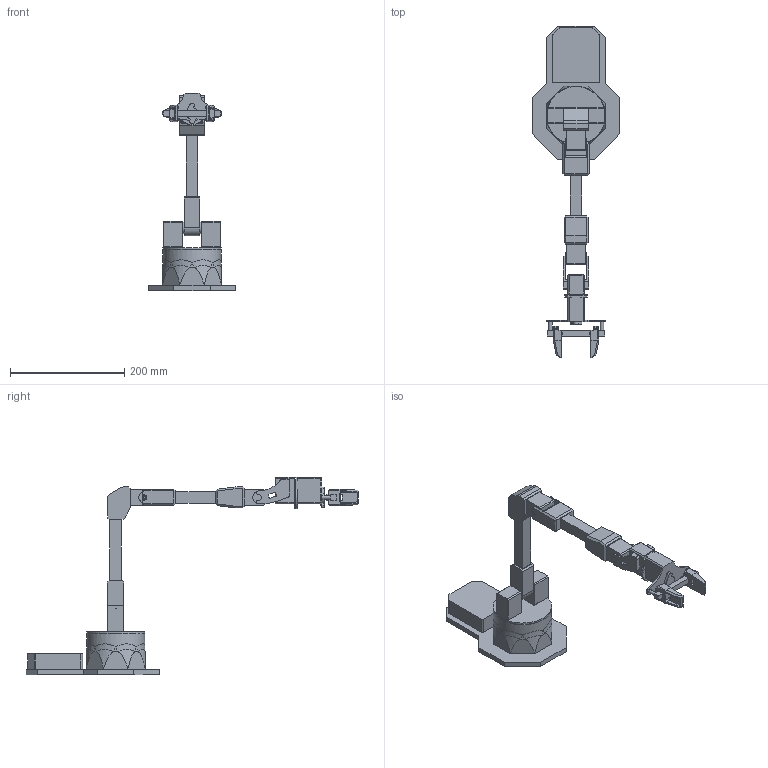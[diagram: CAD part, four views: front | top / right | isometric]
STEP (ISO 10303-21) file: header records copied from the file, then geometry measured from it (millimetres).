
FILE_DESCRIPTION(/* description */ (''),/* implementation_level */ '2;1');
FILE_NAME(/* name */ 'C:/Users/TR1/Desktop/Arm Website Update/WX200/WXA-200.step',/* time_stamp */ '2020-07-14T14:57:21-05:00',/* author */ (''),/* organization */ (''),/* preprocessor_version */ 'ST-DEVELOPER v18.1',/* originating_system */ 'Autodesk Translation Framework v9.3.0.1241',/* authorisation */ '');
FILE_SCHEMA (('AUTOMOTIVE_DESIGN { 1 0 10303 214 3 1 1 }'));
Length unit declared in the file: millimetre
Products named in the file (8): 5 - WXA-200-M; 430 Base v3; 430 Dual Shoulder v2; Fore - 4 - RX-200 v2; 430 - Wrist v3; SRG v3; SRG Carriage With Finger v3; SIMPLIFIED-WXA-200-UA
Assembly tree (8 placements, depth 2):
  5 - WXA-200-M
    430 Base v3
    430 Dual Shoulder v2
    Fore - 4 - RX-200 v2
    430 - Wrist v3
    SRG v3
    SRG Carriage With Finger v3  x2
    SIMPLIFIED-WXA-200-UA
Bounding box: 153.07 x 581.15 x 345.5 mm (x, y, z)
Volume: 1663032.6 mm3; surface area: 228731.3 mm2
Topology: 8 solids, 14 shells, 575 faces, 1431 edges, 910 vertices
Faces by surface type: plane 414, cylinder 123, bspline 20, cone 18
Full cylindrical faces by diameter (mm): 2.1 x4, 3.8 x4, 4.2 x1, 4.9 x2, 6.3 x2, 7.6 x1, 12 x1, 19.1 x1, 19.5 x1, 20.5 x4, 40 x1, 62 x1, 96 x1, 102 x1, 102.181 x1
Entity records: 16605 total; most frequent: CARTESIAN_POINT 4008, ORIENTED_EDGE 2548, DIRECTION 2537, EDGE_CURVE 1274, LINE 923, VECTOR 923, AXIS2_PLACEMENT_3D 807, VERTEX_POINT 806
